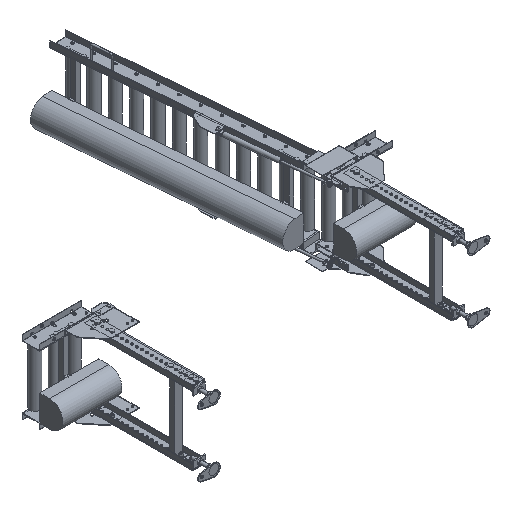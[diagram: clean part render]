
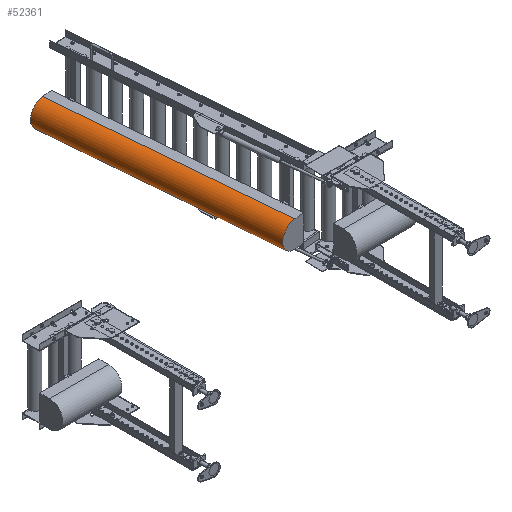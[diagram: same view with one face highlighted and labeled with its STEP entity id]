
A CAD part, isometric view. The second image highlights one B-rep face of the part: STEP entity #52361.
In plain terms, the highlighted cylindrical face has radius 66.89 mm (diameter 133.78 mm), a partial arc.
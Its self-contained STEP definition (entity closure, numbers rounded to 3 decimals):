
#1920 = CIRCLE ( 'NONE', #47070, 66.89 ) ;
#2050 = DIRECTION ( 'NONE',  ( -0.087, 0.996, 0. ) ) ;
#2739 = VECTOR ( 'NONE', #2050, 1000. ) ;
#3392 = DIRECTION ( 'NONE',  ( 0., 0., -1. ) ) ;
#3848 = ORIENTED_EDGE ( 'NONE', *, *, #67586, .F. ) ;
#3991 = AXIS2_PLACEMENT_3D ( 'NONE', #32183, #37951, #3392 ) ;
#5959 = LINE ( 'NONE', #51582, #31270 ) ;
#7132 = CYLINDRICAL_SURFACE ( 'NONE', #64959, 66.89 ) ;
#10702 = VERTEX_POINT ( 'NONE', #21919 ) ;
#11402 = EDGE_LOOP ( 'NONE', ( #3848, #52158, #15779, #40408 ) ) ;
#11856 = DIRECTION ( 'NONE',  ( -0.087, 0.996, 0. ) ) ;
#13460 = FACE_OUTER_BOUND ( 'NONE', #11402, .T. ) ;
#15779 = ORIENTED_EDGE ( 'NONE', *, *, #63794, .T. ) ;
#21919 = CARTESIAN_POINT ( 'NONE',  ( -87.269, 18.539, -159.5 ) ) ;
#23487 = DIRECTION ( 'NONE',  ( 0., 0., 1. ) ) ;
#23506 = CIRCLE ( 'NONE', #3991, 66.89 ) ;
#23581 = DIRECTION ( 'NONE',  ( -0.087, 0.996, 0. ) ) ;
#25760 = CARTESIAN_POINT ( 'NONE',  ( -190.216, 1196.047, -25.72 ) ) ;
#28489 = EDGE_CURVE ( 'NONE', #31708, #36758, #1920, .T. ) ;
#30563 = CARTESIAN_POINT ( 'NONE',  ( -71.797, -158.438, -25.72 ) ) ;
#31270 = VECTOR ( 'NONE', #23581, 1000. ) ;
#31708 = VERTEX_POINT ( 'NONE', #74293 ) ;
#32183 = CARTESIAN_POINT ( 'NONE',  ( -87.269, 18.539, -92.61 ) ) ;
#33408 = LINE ( 'NONE', #30563, #2739 ) ;
#34585 = CARTESIAN_POINT ( 'NONE',  ( -87.269, 18.539, -25.72 ) ) ;
#36758 = VERTEX_POINT ( 'NONE', #25760 ) ;
#37951 = DIRECTION ( 'NONE',  ( -0.087, 0.996, 0. ) ) ;
#40266 = DIRECTION ( 'NONE',  ( -0.087, 0.996, 0. ) ) ;
#40408 = ORIENTED_EDGE ( 'NONE', *, *, #28489, .F. ) ;
#43294 = EDGE_CURVE ( 'NONE', #10702, #57270, #23506, .T. ) ;
#46381 = CARTESIAN_POINT ( 'NONE',  ( -71.797, -158.438, -92.61 ) ) ;
#46602 = CARTESIAN_POINT ( 'NONE',  ( -190.216, 1196.047, -92.61 ) ) ;
#47070 = AXIS2_PLACEMENT_3D ( 'NONE', #46602, #40266, #69028 ) ;
#51582 = CARTESIAN_POINT ( 'NONE',  ( -71.797, -158.438, -159.5 ) ) ;
#52158 = ORIENTED_EDGE ( 'NONE', *, *, #43294, .T. ) ;
#52361 = ADVANCED_FACE ( 'NONE', ( #13460 ), #7132, .T. ) ;
#57270 = VERTEX_POINT ( 'NONE', #34585 ) ;
#63794 = EDGE_CURVE ( 'NONE', #57270, #36758, #33408, .T. ) ;
#64959 = AXIS2_PLACEMENT_3D ( 'NONE', #46381, #11856, #23487 ) ;
#67586 = EDGE_CURVE ( 'NONE', #10702, #31708, #5959, .T. ) ;
#69028 = DIRECTION ( 'NONE',  ( 0., 0., -1. ) ) ;
#74293 = CARTESIAN_POINT ( 'NONE',  ( -190.216, 1196.047, -159.5 ) ) ;
